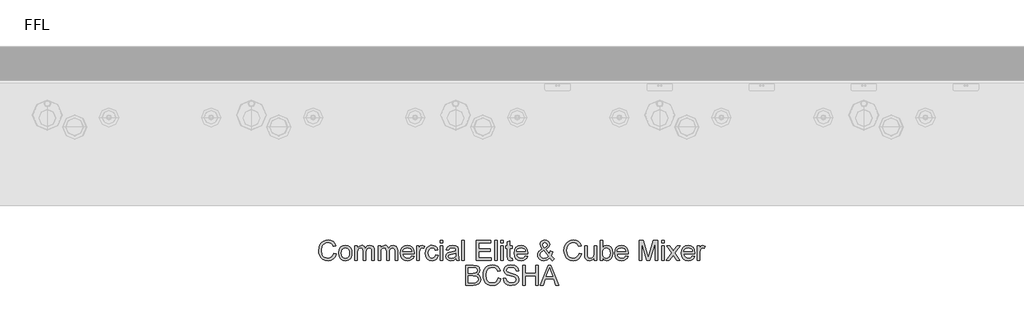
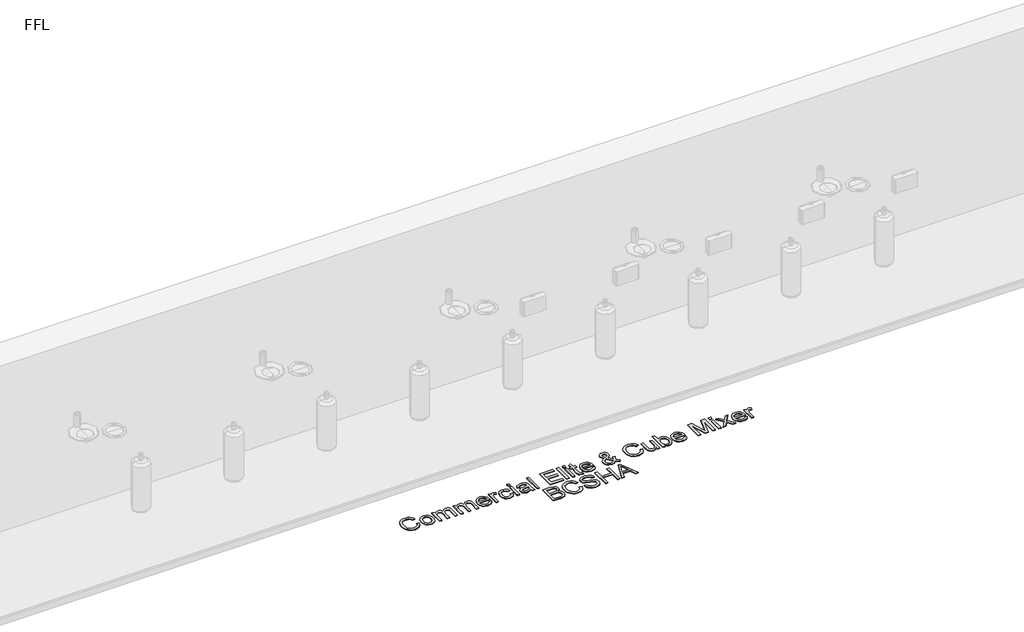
# One storey, part 5 of 13: 1 proxy.
"""IFC4 building model written with IfcOpenShell, lengths in millimetres."""

import ifcopenshell
import ifcopenshell.guid

model = None  # the IFC model being written
_history = None  # IfcOwnerHistory: only IFC2X3 demands one
_inside = {}  # id of a spatial element -> (the spatial element, [elements in it])
_under = {}  # id of a project, library or spatial element -> (it, [spatial elements below it])
_declared = {}  # id of a project -> (the project, [libraries it declares])
_typed = {}  # id of a type object -> (the type object, [elements of that type])
_made_of = {}  # id of a material, layer set ... -> (it, [elements and type objects made of it])


def new_model(schema):
    """Start an empty IFC model of exactly this schema.

    Asked for "IFC4X3", IfcOpenShell would pick the latest addendum, in which some entities
    have other attributes; the version numbers below select the first issue.
    IFC2X3 requires an IfcOwnerHistory on every rooted entity: one is made here for all.
    """
    global model, _history
    if schema == "IFC4X3":
        model = ifcopenshell.file(schema_version=(4, 3, 0, 0))
    else:
        model = ifcopenshell.file(schema=schema)
    _inside.clear()
    _under.clear()
    _declared.clear()
    _typed.clear()
    _made_of.clear()
    _history = None
    if model.schema == "IFC2X3":
        org = make("IfcOrganization", Name="unknown")
        user = make(
            "IfcPersonAndOrganization",
            ThePerson=make("IfcPerson", FamilyName="unknown"),
            TheOrganization=org,
        )
        app = make(
            "IfcApplication",
            ApplicationDeveloper=org,
            Version="unknown",
            ApplicationFullName="unknown",
            ApplicationIdentifier="unknown",
        )
        _history = make(
            "IfcOwnerHistory",
            OwningUser=user,
            OwningApplication=app,
            ChangeAction="ADDED",
            CreationDate=0,
        )
    return model


def make(cls, **values):
    """One entity of the class cls with the attributes given. An attribute that is None is left unset."""
    return model.create_entity(
        cls, **{name: value for name, value in values.items() if value is not None}
    )


def rooted(cls, **values):
    """An entity with a GlobalId (a new one), such as an element, a storey or a relation."""
    return make(cls, GlobalId=ifcopenshell.guid.new(), OwnerHistory=_history, **values)


def si_unit(unit_type, name, prefix=None):
    """IfcSIUnit, for example si_unit("LENGTHUNIT", "METRE", prefix="MILLI")."""
    return make("IfcSIUnit", UnitType=unit_type, Prefix=prefix, Name=name)


def assignment(units):
    """IfcUnitAssignment: the units of a project."""
    return None if units is None else make("IfcUnitAssignment", Units=units)


def point(xyz):
    """IfcCartesianPoint."""
    return None if xyz is None else make("IfcCartesianPoint", Coordinates=xyz)


def direction(xyz):
    """IfcDirection."""
    return None if xyz is None else make("IfcDirection", DirectionRatios=xyz)


def frame(location, z_axis=None, x_axis=None):
    """IfcAxis2Placement3D, a coordinate frame: its origin and axes. An axis left out is left unset."""
    return make(
        "IfcAxis2Placement3D",
        Location=point(location),
        Axis=direction(z_axis),
        RefDirection=direction(x_axis),
    )


def origin():
    """The frame at (0, 0, 0) with its axes left unset."""
    return frame((0.0, 0.0, 0.0))


def origin_with_axes():
    """The frame at (0, 0, 0) with the z axis (0, 0, 1) and the x axis (1, 0, 0) written out."""
    return frame((0.0, 0.0, 0.0), z_axis=(0.0, 0.0, 1.0), x_axis=(1.0, 0.0, 0.0))


def place(relative_to, where):
    """IfcLocalPlacement: puts the frame where relative to a parent placement (None: the world)."""
    return make(
        "IfcLocalPlacement", PlacementRelTo=relative_to, RelativePlacement=where
    )


def context(
    kind, dimensions, precision=None, world=None, true_north=None, identifier=None
):
    """IfcGeometricRepresentationContext, for example the 3D "Model" context."""
    return make(
        "IfcGeometricRepresentationContext",
        ContextIdentifier=identifier,
        ContextType=kind,
        CoordinateSpaceDimension=dimensions,
        Precision=precision,
        WorldCoordinateSystem=world,
        TrueNorth=true_north,
    )


def project(units=None, contexts=None):
    """IfcProject with its units and contexts."""
    return rooted(
        "IfcProject",
        Name="project",
        RepresentationContexts=contexts,
        UnitsInContext=assignment(units),
    )


def spatial(cls, under=None, at=None, **own):
    """A site, building, storey or space (cls), placed at a placement, below another one or the project."""
    s = rooted(cls, ObjectPlacement=at, **own)
    if under is not None:
        _under.setdefault(under.id(), (under, []))[1].append(s)
    return s


def polyline(points):
    """IfcPolyline through the points."""
    return make("IfcPolyline", Points=[point(p) for p in points])


def outline(outer, holes=None, kind="AREA"):
    """IfcArbitraryClosedProfileDef: a profile drawn as a closed curve; with holes, ...WithVoids."""
    if holes is None:
        return make("IfcArbitraryClosedProfileDef", ProfileType=kind, OuterCurve=outer)
    return make(
        "IfcArbitraryProfileDefWithVoids",
        ProfileType=kind,
        OuterCurve=outer,
        InnerCurves=holes,
    )


def extrude(swept, where, along, depth):
    """IfcExtrudedAreaSolid: the profile swept, set in the frame where, extruded along a direction by depth."""
    return make(
        "IfcExtrudedAreaSolid",
        SweptArea=swept,
        Position=where,
        ExtrudedDirection=direction(along),
        Depth=depth,
    )


def shape(context_of_items, identifier, shape_type, items):
    """IfcShapeRepresentation: the items that make up one representation, for example the "Body"."""
    return make(
        "IfcShapeRepresentation",
        ContextOfItems=context_of_items,
        RepresentationIdentifier=identifier,
        RepresentationType=shape_type,
        Items=items,
    )


def made_of(thing, what):
    """Note that an element or type object is made of a material, layer set ...; save() writes the relation."""
    if what is not None:
        _made_of.setdefault(what.id(), (what, []))[1].append(thing)
    return thing


def element(
    cls,
    number,
    at=None,
    inside=None,
    cuts=None,
    type_object=None,
    material=None,
    context=None,
    identifier="Body",
    shape_type=None,
    held_by="IfcProductDefinitionShape",
    body=None,
    shapes=None,
    **own,
):
    """One element of the class cls, such as IfcWall. Its Tag is "e" and its number.

    at: its placement. inside: the storey or other place that contains it. cuts: it is an
    opening in that element (IfcRelVoidsElement). A single representation is given by context,
    identifier, shape_type and body (its items); several are given by shapes. held_by: the class
    of the entity that holds the representations. save() writes the other relations.
    """
    e = rooted(cls, Tag="e%d" % number, ObjectPlacement=at, **own)
    if body is not None:
        shapes = [shape(context, identifier, shape_type, body)]
    if shapes is not None:
        e.Representation = make(held_by, Representations=shapes)
    if inside is not None:
        _inside.setdefault(inside.id(), (inside, []))[1].append(e)
    if cuts is not None:
        rooted(
            "IfcRelVoidsElement", RelatingBuildingElement=cuts, RelatedOpeningElement=e
        )
    if type_object is not None:
        _typed.setdefault(type_object.id(), (type_object, []))[1].append(e)
    return made_of(e, material)


def aggregate(whole, parts):
    """IfcRelAggregates: a whole, such as a stair, and the parts it consists of."""
    return rooted("IfcRelAggregates", RelatingObject=whole, RelatedObjects=parts)


def save(model, path):
    """Write the relations noted so far, then the file.

    IfcRelAggregates (storeys below a building ...), IfcRelContainedInSpatialStructure (elements
    in a storey), IfcRelDefinesByType, IfcRelAssociatesMaterial and IfcRelDeclares: one each for
    every whole, place, type object, material and project.
    """
    for whole, parts in _under.values():
        aggregate(whole, parts)
    for where, things in _inside.values():
        rooted(
            "IfcRelContainedInSpatialStructure",
            RelatedElements=things,
            RelatingStructure=where,
        )
    for kind, things in _typed.values():
        rooted("IfcRelDefinesByType", RelatedObjects=things, RelatingType=kind)
    for what, things in _made_of.values():
        rooted("IfcRelAssociatesMaterial", RelatedObjects=things, RelatingMaterial=what)
    for by, libraries in _declared.values():
        rooted("IfcRelDeclares", RelatingContext=by, RelatedDefinitions=libraries)
    model.write(path)


model = new_model("IFC4")

# Units and contexts
model_context = context("Model", 3, world=origin())
ifc_project = project(units=[si_unit("LENGTHUNIT", "METRE", prefix="MILLI")], contexts=[model_context])

# Site, building, storey
site = spatial("IfcSite", under=ifc_project)
building = spatial("IfcBuilding", under=site)
storey = spatial("IfcBuildingStorey", under=building, Name="FFL", Elevation=0.0)

# Proxy
placement = place(None, origin())
element("IfcBuildingElementProxy", 1, Name="150mm Arial", ObjectType="150mm Arial", at=placement, inside=storey, context=model_context, shape_type="SweptSolid", body=[
    extrude(outline(polyline([(5635.1685533, -4463.6981691), (5653.6300917, -4468.4577845), (5645.1114619, -4489.9707052), (5631.7430725, -4505.6873518), (5614.1829764, -4515.301234), (5593.0892264, -4518.5058614), (5571.6754643, -4516.0809816), (5554.6697552, -4508.8063422), (5541.6348994, -4496.934347), (5532.1336975, -4480.7173999), (5526.3329163, -4461.6518951), (5524.3993225, -4441.2342268), (5526.5853201, -4419.6987701), (5533.1433129, -4401.1020153), (5543.7307528, -4386.0344071), (5558.0050917, -4375.0863903), (5574.9341783, -4368.4202244), (5593.485861, -4366.1981691), (5613.727748, -4369.0737701), (5630.4630244, -4377.700573), (5643.1688538, -4391.5467268), (5651.3223994, -4410.0803807), (5632.860861, -4414.4794191), (5626.4606206, -4401.0163783), (5617.7166302, -4391.7811018), (5606.5207167, -4386.4400561), (5592.7647071, -4384.6597076), (5576.9083369, -4386.6338662), (5563.8824956, -4392.5563422), (5553.9981807, -4401.8051403), (5547.5663898, -4413.7582653), (5542.860861, -4441.1981691), (5548.4317744, -4473.0010537), (5555.5531687, -4484.8775561), (5565.7755244, -4493.3195633), (5578.0306326, -4498.3631331), (5591.2502841, -4500.044323), (5606.6604403, -4497.7546595), (5619.501486, -4490.8856691), (5629.196498, -4479.5094672), (5635.1685533, -4463.6981691)])), origin_with_axes(), (0.0, 0.0, 1.0), 5.0),
    extrude(outline(polyline([(5672.0916302, -4461.9673999), (5676.0850196, -4435.8165585), (5688.0651879, -4417.4361499), (5702.8668706, -4408.4307412), (5720.5892264, -4405.4289383), (5739.9837576, -4409.0842869), (5755.4750437, -4420.0503326), (5765.6297913, -4437.4616908), (5769.0147071, -4460.4529768), (5767.5183129, -4479.1038182), (5763.0291302, -4493.3015345), (5755.6778682, -4503.9340465), (5745.595236, -4511.8892749), (5733.6195749, -4516.8517148), (5720.5892264, -4518.5058614), (5700.9603201, -4514.8640345), (5685.4870629, -4503.9385537), (5675.4404884, -4486.1621114), (5672.0916302, -4461.9673999)]), holes=[polyline([(5690.5531687, -4461.9313422), (5692.6895869, -4478.6395754), (5699.0988417, -4490.543121), (5708.7442744, -4497.6690225), (5720.5892264, -4500.044323), (5732.3800917, -4497.6555008), (5742.0074956, -4490.4890345), (5748.4167504, -4478.4277364), (5750.5531687, -4461.3544191), (5748.4032288, -4445.1329648), (5741.9534091, -4433.3916787), (5732.3124836, -4426.2657773), (5720.5892264, -4423.8904768), (5708.7442744, -4426.2567629), (5699.0988417, -4433.355621), (5692.6895869, -4445.2321234), (5690.5531687, -4461.9313422)])]), origin_with_axes(), (0.0, 0.0, 1.0), 5.0),
    extrude(outline(polyline([(5789.7839379, -4516.1981691), (5789.7839379, -4407.7366307), (5808.2454764, -4407.7366307), (5808.2454764, -4425.5851883), (5820.9377841, -4410.9637941), (5839.0026879, -4405.4289383), (5849.2701158, -4406.8396956), (5857.5002841, -4411.0719672), (5867.6685533, -4426.8832653), (5882.0736014, -4410.7925201), (5900.2647071, -4405.4289383), (5914.1424115, -4407.6600081), (5924.4053321, -4414.3532172), (5930.7469788, -4425.6888542), (5932.860861, -4441.8472076), (5932.860861, -4516.1981691), (5914.3993225, -4516.1981691), (5914.3993225, -4449.7798999), (5912.6865821, -4434.3652364), (5906.4846591, -4426.7750922), (5895.9377841, -4423.8904768), (5885.9362816, -4425.7384335), (5877.782736, -4431.2823037), (5872.3605605, -4440.9006932), (5870.5531687, -4454.9722076), (5870.5531687, -4516.1981691), (5852.0916302, -4516.1981691), (5852.0916302, -4447.7246114), (5847.8187937, -4429.839996), (5842.180272, -4425.3778566), (5833.8103802, -4423.8904768), (5820.1445148, -4427.856823), (5811.0579764, -4439.4673999), (5808.2454764, -4461.4986499), (5808.2454764, -4516.1981691), (5789.7839379, -4516.1981691)])), origin_with_axes(), (0.0, 0.0, 1.0), 5.0),
    extrude(outline(polyline([(5960.5531687, -4516.1981691), (5960.5531687, -4407.7366307), (5979.0147071, -4407.7366307), (5979.0147071, -4425.5851883), (5991.7070148, -4410.9637941), (6009.7719187, -4405.4289383), (6020.0393466, -4406.8396956), (6028.2695148, -4411.0719672), (6038.4377841, -4426.8832653), (6052.8428321, -4410.7925201), (6071.0339379, -4405.4289383), (6084.9116422, -4407.6600081), (6095.1745629, -4414.3532172), (6101.5162095, -4425.6888542), (6103.6300917, -4441.8472076), (6103.6300917, -4516.1981691), (6085.1685533, -4516.1981691), (6085.1685533, -4449.7798999), (6083.4558129, -4434.3652364), (6077.2538898, -4426.7750922), (6066.7070148, -4423.8904768), (6056.7055124, -4425.7384335), (6048.5519667, -4431.2823037), (6043.1297913, -4440.9006932), (6041.3223994, -4454.9722076), (6041.3223994, -4516.1981691), (6022.860861, -4516.1981691), (6022.860861, -4447.7246114), (6018.5880244, -4429.839996), (6012.9495028, -4425.3778566), (6004.579611, -4423.8904768), (5990.9137456, -4427.856823), (5981.8272071, -4439.4673999), (5979.0147071, -4461.4986499), (5979.0147071, -4516.1981691), (5960.5531687, -4516.1981691)])), origin_with_axes(), (0.0, 0.0, 1.0), 5.0),
    extrude(outline(polyline([(6207.2598994, -4483.8904768), (6225.360861, -4486.1981691), (6218.8389259, -4499.8369912), (6208.4317744, -4510.0323037), (6194.3737816, -4516.387472), (6176.8993225, -4518.5058614), (6155.2376639, -4514.8505129), (6138.5699956, -4503.8844672), (6127.9419908, -4486.3198638), (6124.3993225, -4462.8688422), (6127.9780485, -4438.6290585), (6138.7142264, -4420.5010537), (6155.1565341, -4409.1969672), (6175.8536494, -4405.4289383), (6195.9062336, -4409.1879528), (6211.9293706, -4420.464996), (6222.4356807, -4438.5569432), (6225.9377841, -4462.7606691), (6225.829611, -4467.7366307), (6142.860861, -4467.7366307), (6146.056474, -4481.5557412), (6153.4798514, -4491.714996), (6164.1934932, -4497.9619912), (6177.2598994, -4500.044323), (6195.360861, -4496.1861499), (6207.2598994, -4483.8904768)]), holes=[polyline([(6142.860861, -4449.2750922), (6207.4762456, -4449.2750922), (6204.9792504, -4439.5214864), (6200.0844187, -4432.544323), (6189.3211975, -4426.0539383), (6175.7815341, -4423.8904768), (6163.337123, -4425.6167388), (6153.0471591, -4430.7955249), (6145.8942143, -4438.8679408), (6142.860861, -4449.2750922)])]), origin_with_axes(), (0.0, 0.0, 1.0), 5.0),
    extrude(outline(polyline([(6244.3993225, -4516.1981691), (6244.3993225, -4407.7366307), (6260.5531687, -4407.7366307), (6260.5531687, -4423.7823037), (6272.0195148, -4408.9986499), (6283.5579764, -4405.4289383), (6302.0916302, -4411.1260537), (6295.9257648, -4427.6765345), (6282.9449956, -4423.8904768), (6272.5062937, -4427.5323037), (6265.8536494, -4437.6284576), (6262.860861, -4459.1909576), (6262.860861, -4516.1981691), (6244.3993225, -4516.1981691)])), origin_with_axes(), (0.0, 0.0, 1.0), 5.0),
    extrude(outline(polyline([(6382.860861, -4476.9673999), (6401.3223994, -4479.2750922), (6396.1751639, -4495.6948638), (6386.5026879, -4508.1032172), (6373.2154283, -4515.9052004), (6357.2238417, -4518.5058614), (6337.5859211, -4514.8775561), (6322.2298514, -4503.9926403), (6312.3184932, -4486.3288783), (6309.0147071, -4462.3640345), (6314.657736, -4431.6969672), (6321.7791302, -4420.1990706), (6331.8572552, -4411.9914383), (6343.9140461, -4407.0695633), (6356.9714379, -4405.4289383), (6372.570897, -4407.6825441), (6385.0423514, -4414.4433614), (6393.9891663, -4425.3508133), (6399.0147071, -4440.044323), (6380.5531687, -4442.3520153), (6371.9894667, -4428.5238903), (6357.1156687, -4423.8904768), (6345.1850797, -4426.1711258), (6335.7154283, -4433.013073), (6329.5360413, -4444.7859095), (6327.4762456, -4461.8592268), (6329.4909691, -4479.1624119), (6335.5351398, -4490.9758133), (6344.8335172, -4497.7771956), (6356.610861, -4500.044323), (6366.1706566, -4498.6290585), (6374.0086975, -4494.3832653), (6379.7103201, -4487.1987701), (6382.860861, -4476.9673999)])), origin_with_axes(), (0.0, 0.0, 1.0), 5.0),
    extrude(outline(polyline([(6417.4762456, -4386.9673999), (6417.4762456, -4368.5058614), (6435.9377841, -4368.5058614), (6435.9377841, -4386.9673999), (6417.4762456, -4386.9673999)])), origin_with_axes(), (0.0, 0.0, 1.0), 5.0),
    extrude(outline(polyline([(6417.4762456, -4516.1981691), (6417.4762456, -4407.7366307), (6435.9377841, -4407.7366307), (6435.9377841, -4516.1981691), (6417.4762456, -4516.1981691)])), origin_with_axes(), (0.0, 0.0, 1.0), 5.0),
    extrude(outline(polyline([(6532.860861, -4502.3520153), (6514.9582167, -4514.8640345), (6495.1805725, -4518.5058614), (6479.7523874, -4516.3153566), (6468.3716783, -4509.7438422), (6461.3539499, -4499.7648758), (6459.0147071, -4487.3520153), (6462.548361, -4472.7486499), (6471.8332167, -4462.1476883), (6484.7598994, -4456.089996), (6500.7334571, -4453.3135537), (6532.7526879, -4446.9673999), (6532.860861, -4442.856823), (6531.5898273, -4434.6176403), (6527.7767264, -4429.2270153), (6519.2490821, -4425.2246114), (6507.3680725, -4423.8904768), (6488.6901879, -4427.4421595), (6479.7839379, -4440.044323), (6461.3223994, -4437.7366307), (6469.3091783, -4419.7077845), (6485.3909091, -4409.1428807), (6509.7478802, -4405.4289383), (6532.1216783, -4408.7101883), (6544.7598994, -4416.949371), (6550.4209571, -4429.4794191), (6551.3223994, -4445.6332653), (6551.3223994, -4468.6020153), (6552.2598994, -4500.6753326), (6555.9377841, -4516.1981691), (6537.4762456, -4516.1981691), (6532.860861, -4502.3520153)]), holes=[polyline([(6532.860861, -4465.4289383), (6503.0772071, -4471.089996), (6487.1937937, -4474.0827845), (6480.0002841, -4478.950573), (6477.4762456, -4486.0539383), (6482.9750437, -4496.0419191), (6499.110861, -4500.044323), (6517.7887456, -4495.6272557), (6529.8320148, -4484.9361499), (6532.7526879, -4470.6573037), (6532.860861, -4465.4289383)])]), origin_with_axes(), (0.0, 0.0, 1.0), 5.0),
    extrude(outline(polyline([(6576.7070148, -4516.1981691), (6576.7070148, -4368.5058614), (6595.1685533, -4368.5058614), (6595.1685533, -4516.1981691), (6576.7070148, -4516.1981691)])), origin_with_axes(), (0.0, 0.0, 1.0), 5.0),
    extrude(outline(polyline([(6682.860861, -4516.1981691), (6682.860861, -4368.5058614), (6789.0147071, -4368.5058614), (6789.0147071, -4386.9673999), (6701.3223994, -4386.9673999), (6701.3223994, -4430.8135537), (6784.3993225, -4430.8135537), (6784.3993225, -4449.2750922), (6701.3223994, -4449.2750922), (6701.3223994, -4497.7366307), (6791.3223994, -4497.7366307), (6791.3223994, -4516.1981691), (6682.860861, -4516.1981691)])), origin_with_axes(), (0.0, 0.0, 1.0), 5.0),
    extrude(outline(polyline([(6816.7070148, -4516.1981691), (6816.7070148, -4368.5058614), (6835.1685533, -4368.5058614), (6835.1685533, -4516.1981691), (6816.7070148, -4516.1981691)])), origin_with_axes(), (0.0, 0.0, 1.0), 5.0),
    extrude(outline(polyline([(6862.860861, -4516.1981691), (6862.860861, -4407.7366307), (6881.3223994, -4407.7366307), (6881.3223994, -4516.1981691), (6862.860861, -4516.1981691)])), origin_with_axes(), (0.0, 0.0, 1.0), 5.0),
    extrude(outline(polyline([(6862.860861, -4386.9673999), (6862.860861, -4368.5058614), (6881.3223994, -4368.5058614), (6881.3223994, -4386.9673999), (6862.860861, -4386.9673999)])), origin_with_axes(), (0.0, 0.0, 1.0), 5.0),
    extrude(outline(polyline([(6948.2454764, -4500.8015345), (6950.5531687, -4516.7390345), (6936.7430725, -4518.5058614), (6921.2743225, -4515.4409576), (6913.5579764, -4507.4000922), (6911.3223994, -4486.450573), (6911.3223994, -4426.1981691), (6897.4762456, -4426.1981691), (6897.4762456, -4407.7366307), (6911.3223994, -4407.7366307), (6911.3223994, -4381.3784576), (6929.7839379, -4370.5250922), (6929.7839379, -4407.7366307), (6948.2454764, -4407.7366307), (6948.2454764, -4426.1981691), (6929.7839379, -4426.1981691), (6929.7839379, -4485.9097076), (6930.7574956, -4495.4289383), (6933.9125437, -4498.8003326), (6940.204611, -4500.044323), (6948.2454764, -4500.8015345)])), origin_with_axes(), (0.0, 0.0, 1.0), 5.0),
    extrude(outline(polyline([(7042.6445148, -4483.8904768), (7060.7454764, -4486.1981691), (7054.2235413, -4499.8369912), (7043.8163898, -4510.0323037), (7029.758397, -4516.387472), (7012.2839379, -4518.5058614), (6990.6222792, -4514.8505129), (6973.954611, -4503.8844672), (6963.3266062, -4486.3198638), (6959.7839379, -4462.8688422), (6963.3626639, -4438.6290585), (6974.0988417, -4420.5010537), (6990.5411494, -4409.1969672), (7011.2382648, -4405.4289383), (7031.290849, -4409.1879528), (7047.313986, -4420.464996), (7057.8202961, -4438.5569432), (7061.3223994, -4462.7606691), (7061.2142264, -4467.7366307), (6978.2454764, -4467.7366307), (6981.4410893, -4481.5557412), (6988.8644667, -4491.714996), (6999.5781086, -4497.9619912), (7012.6445148, -4500.044323), (7030.7454764, -4496.1861499), (7042.6445148, -4483.8904768)]), holes=[polyline([(6978.2454764, -4449.2750922), (7042.860861, -4449.2750922), (7040.3638658, -4439.5214864), (7035.4690341, -4432.544323), (7024.7058129, -4426.0539383), (7011.1661494, -4423.8904768), (6998.7217384, -4425.6167388), (6988.4317744, -4430.7955249), (6981.2788297, -4438.8679408), (6978.2454764, -4449.2750922)])]), origin_with_axes(), (0.0, 0.0, 1.0), 5.0),
    extrude(outline(polyline([(7222.1757648, -4497.9529768), (7202.5964379, -4513.3676403), (7179.6998033, -4518.5058614), (7159.3272071, -4514.7017749), (7143.642111, -4503.2895153), (7135.5561735, -4490.1555008), (7132.860861, -4475.5611499), (7135.0288297, -4462.6254528), (7141.532736, -4451.0058614), (7152.3455365, -4440.7113903), (7167.4401879, -4431.7510537), (7154.5495629, -4413.0731691), (7151.3223994, -4399.2270153), (7153.8644667, -4386.7600682), (7161.4906687, -4376.0419191), (7172.9660292, -4368.6591066), (7187.0555725, -4366.1981691), (7200.4600196, -4368.5509335), (7211.1781687, -4375.6092268), (7218.2094187, -4385.9667989), (7220.5531687, -4398.2173999), (7218.8178922, -4408.5028566), (7213.6120629, -4418.013073), (7192.7887456, -4434.7077845), (7219.5074956, -4467.9890345), (7227.4762456, -4447.544323), (7245.9377841, -4451.5467268), (7232.8848994, -4481.9433614), (7255.1685533, -4504.2991307), (7241.3223994, -4518.5058614), (7222.1757648, -4497.9529768)]), holes=[polyline([(7183.4498033, -4423.0611499), (7198.6300917, -4411.6128326), (7202.0916302, -4400.7414383), (7197.5303321, -4389.1488903), (7186.1180725, -4384.6597076), (7174.4534091, -4389.1128326), (7169.7839379, -4399.9842268), (7171.3704764, -4406.7450441), (7176.1661494, -4414.263073), (7183.4498033, -4423.0611499)]), polyline([(7209.8079764, -4484.6476883), (7176.8512456, -4443.5058614), (7156.5687937, -4458.9746114), (7151.3223994, -4473.1092268), (7153.1162696, -4481.8171595), (7158.4978802, -4490.8496114), (7167.1697552, -4497.7456451), (7178.8344187, -4500.044323), (7195.7995629, -4495.7534576), (7209.8079764, -4484.6476883)])]), origin_with_axes(), (0.0, 0.0, 1.0), 5.0),
    extrude(outline(polyline([(7437.4762456, -4463.6981691), (7455.9377841, -4468.4577845), (7447.4191542, -4489.9707052), (7434.0507648, -4505.6873518), (7416.4906687, -4515.301234), (7395.3969187, -4518.5058614), (7373.9831566, -4516.0809816), (7356.9774475, -4508.8063422), (7343.9425917, -4496.934347), (7334.4413898, -4480.7173999), (7328.6406086, -4461.6518951), (7326.7070148, -4441.2342268), (7328.8930124, -4419.6987701), (7335.4510052, -4401.1020153), (7346.0384451, -4386.0344071), (7360.3127841, -4375.0863903), (7377.2418706, -4368.4202244), (7395.7935533, -4366.1981691), (7416.0354403, -4369.0737701), (7432.7707167, -4377.700573), (7445.4765461, -4391.5467268), (7453.6300917, -4410.0803807), (7435.1685533, -4414.4794191), (7428.7683129, -4401.0163783), (7420.0243225, -4391.7811018), (7408.8284091, -4386.4400561), (7395.0723994, -4384.6597076), (7379.2160292, -4386.6338662), (7366.1901879, -4392.5563422), (7356.305873, -4401.8051403), (7349.8740821, -4413.7582653), (7345.1685533, -4441.1981691), (7350.7394667, -4473.0010537), (7357.860861, -4484.8775561), (7368.0832167, -4493.3195633), (7380.3383249, -4498.3631331), (7393.5579764, -4500.044323), (7408.9681326, -4497.7546595), (7421.8091783, -4490.8856691), (7431.5041903, -4479.5094672), (7437.4762456, -4463.6981691)])), origin_with_axes(), (0.0, 0.0, 1.0), 5.0),
    extrude(outline(polyline([(7548.2454764, -4516.1981691), (7548.2454764, -4497.5563422), (7533.7863417, -4513.2684816), (7514.9281687, -4518.5058614), (7497.5663898, -4514.8279768), (7485.595236, -4505.5972076), (7480.0964379, -4492.0034576), (7479.0147071, -4474.839996), (7479.0147071, -4407.7366307), (7497.4762456, -4407.7366307), (7497.4762456, -4466.1500922), (7498.5940341, -4484.9722076), (7505.8957167, -4496.0238903), (7519.6517264, -4500.044323), (7535.0663898, -4495.933746), (7545.2526879, -4484.7378326), (7548.2454764, -4464.1669191), (7548.2454764, -4407.7366307), (7566.7070148, -4407.7366307), (7566.7070148, -4516.1981691), (7548.2454764, -4516.1981691)])), origin_with_axes(), (0.0, 0.0, 1.0), 5.0),
    extrude(outline(polyline([(7610.5531687, -4516.1981691), (7592.0916302, -4516.1981691), (7592.0916302, -4368.5058614), (7610.5531687, -4368.5058614), (7610.5531687, -4423.277496), (7623.4798514, -4409.8910778), (7639.5435533, -4405.4289383), (7658.0411494, -4409.449371), (7672.392111, -4420.7534576), (7681.2082167, -4438.3315826), (7684.3993225, -4460.3448037), (7681.0955365, -4484.9902364), (7671.1841783, -4503.325573), (7656.6394066, -4514.7107893), (7639.4353802, -4518.5058614), (7623.0201158, -4513.6110297), (7610.5531687, -4498.9265345), (7610.5531687, -4516.1981691)]), holes=[polyline([(7610.5531687, -4461.2101883), (7611.8151879, -4476.606823), (7615.6012456, -4487.027496), (7625.2737216, -4496.7901162), (7637.8488417, -4500.044323), (7648.5038898, -4497.6464864), (7657.6084571, -4490.4529768), (7663.8554523, -4478.5088662), (7665.9377841, -4461.8592268), (7663.9410893, -4444.966198), (7657.9510052, -4433.1573037), (7649.1303922, -4426.2071835), (7638.642111, -4423.8904768), (7627.9870629, -4426.2883133), (7618.8824956, -4433.481823), (7612.6355004, -4445.2095874), (7610.5531687, -4461.2101883)])]), origin_with_axes(), (0.0, 0.0, 1.0), 5.0),
    extrude(outline(polyline([(7781.1060533, -4483.8904768), (7799.2070148, -4486.1981691), (7792.6850797, -4499.8369912), (7782.2779283, -4510.0323037), (7768.2199355, -4516.387472), (7750.7454764, -4518.5058614), (7729.0838177, -4514.8505129), (7712.4161494, -4503.8844672), (7701.7881446, -4486.3198638), (7698.2454764, -4462.8688422), (7701.8242023, -4438.6290585), (7712.5603802, -4420.5010537), (7729.0026879, -4409.1969672), (7749.6998033, -4405.4289383), (7769.7523874, -4409.1879528), (7785.7755244, -4420.464996), (7796.2818345, -4438.5569432), (7799.7839379, -4462.7606691), (7799.6757648, -4467.7366307), (7716.7070148, -4467.7366307), (7719.9026278, -4481.5557412), (7727.3260052, -4491.714996), (7738.039647, -4497.9619912), (7751.1060533, -4500.044323), (7769.2070148, -4496.1861499), (7781.1060533, -4483.8904768)]), holes=[polyline([(7716.7070148, -4449.2750922), (7781.3223994, -4449.2750922), (7778.8254042, -4439.5214864), (7773.9305725, -4432.544323), (7763.1673514, -4426.0539383), (7749.6276879, -4423.8904768), (7737.1832768, -4425.6167388), (7726.8933129, -4430.7955249), (7719.7403682, -4438.8679408), (7716.7070148, -4449.2750922)])]), origin_with_axes(), (0.0, 0.0, 1.0), 5.0),
    extrude(outline(polyline([(7878.2454764, -4516.1981691), (7878.2454764, -4368.5058614), (7910.0123033, -4368.5058614), (7940.2286494, -4472.6044191), (7946.3223994, -4494.3472076), (7952.9209571, -4470.8015345), (7982.6324956, -4368.5058614), (8014.3993225, -4368.5058614), (8014.3993225, -4516.1981691), (7995.9377841, -4516.1981691), (7995.9377841, -4386.9673999), (7958.8344187, -4516.1981691), (7933.8103802, -4516.1981691), (7896.7070148, -4386.9673999), (7896.7070148, -4516.1981691), (7878.2454764, -4516.1981691)])), origin_with_axes(), (0.0, 0.0, 1.0), 5.0),
    extrude(outline(polyline([(8044.3993225, -4516.1981691), (8044.3993225, -4407.7366307), (8062.860861, -4407.7366307), (8062.860861, -4516.1981691), (8044.3993225, -4516.1981691)])), origin_with_axes(), (0.0, 0.0, 1.0), 5.0),
    extrude(outline(polyline([(8044.3993225, -4386.9673999), (8044.3993225, -4368.5058614), (8062.860861, -4368.5058614), (8062.860861, -4386.9673999), (8044.3993225, -4386.9673999)])), origin_with_axes(), (0.0, 0.0, 1.0), 5.0),
    extrude(outline(polyline([(8079.0147071, -4516.1981691), (8118.4618225, -4461.6789383), (8081.3223994, -4407.7366307), (8103.5339379, -4407.7366307), (8121.454611, -4433.6981691), (8129.8199956, -4445.9577845), (8137.0675917, -4435.933746), (8157.4762456, -4407.7366307), (8179.6877841, -4407.7366307), (8140.673361, -4461.6789383), (8178.2454764, -4516.1981691), (8156.0339379, -4516.1981691), (8133.4257648, -4483.4217268), (8129.2791302, -4477.4361499), (8101.2262456, -4516.1981691), (8079.0147071, -4516.1981691)])), origin_with_axes(), (0.0, 0.0, 1.0), 5.0),
    extrude(outline(polyline([(8270.3368225, -4483.8904768), (8288.4377841, -4486.1981691), (8281.915849, -4499.8369912), (8271.5086975, -4510.0323037), (8257.4507047, -4516.387472), (8239.9762456, -4518.5058614), (8218.3145869, -4514.8505129), (8201.6469187, -4503.8844672), (8191.0189139, -4486.3198638), (8187.4762456, -4462.8688422), (8191.0549716, -4438.6290585), (8201.7911494, -4420.5010537), (8218.2334571, -4409.1969672), (8238.9305725, -4405.4289383), (8258.9831566, -4409.1879528), (8275.0062937, -4420.464996), (8285.5126038, -4438.5569432), (8289.0147071, -4462.7606691), (8288.9065341, -4467.7366307), (8205.9377841, -4467.7366307), (8209.133397, -4481.5557412), (8216.5567744, -4491.714996), (8227.2704163, -4497.9619912), (8240.3368225, -4500.044323), (8258.4377841, -4496.1861499), (8270.3368225, -4483.8904768)]), holes=[polyline([(8205.9377841, -4449.2750922), (8270.5531687, -4449.2750922), (8268.0561735, -4439.5214864), (8263.1613417, -4432.544323), (8252.3981206, -4426.0539383), (8238.8584571, -4423.8904768), (8226.4140461, -4425.6167388), (8216.1240821, -4430.7955249), (8208.9711374, -4438.8679408), (8205.9377841, -4449.2750922)])]), origin_with_axes(), (0.0, 0.0, 1.0), 5.0),
    extrude(outline(polyline([(8307.4762456, -4516.1981691), (8307.4762456, -4407.7366307), (8323.6300917, -4407.7366307), (8323.6300917, -4423.7823037), (8335.0964379, -4408.9986499), (8346.6348994, -4405.4289383), (8365.1685533, -4411.1260537), (8359.0026879, -4427.6765345), (8346.0219187, -4423.8904768), (8335.5832167, -4427.5323037), (8328.9305725, -4437.6284576), (8325.9377841, -4459.1909576), (8325.9377841, -4516.1981691), (8307.4762456, -4516.1981691)])), origin_with_axes(), (0.0, 0.0, 1.0), 5.0),
    extrude(outline(polyline([(6603.2454764, -4698.5058614), (6603.2454764, -4550.8135537), (6659.6036494, -4550.8135537), (6687.2058129, -4555.1585057), (6696.4816542, -4560.6708254), (6703.5038898, -4568.5178807), (6709.3993225, -4587.4121114), (6704.4413898, -4604.6657172), (6689.4594187, -4617.7366307), (6699.9206566, -4623.199371), (6707.6505244, -4631.5106691), (6712.4236615, -4642.1206451), (6714.0147071, -4654.4794191), (6709.6697552, -4674.3291787), (6698.9065341, -4688.4637941), (6682.8428321, -4695.9637941), (6659.1709571, -4698.5058614), (6603.2454764, -4698.5058614)]), holes=[polyline([(6621.7070148, -4610.8135537), (6655.4209571, -4610.8135537), (6675.1084571, -4609.2270153), (6686.9534091, -4602.3940826), (6690.9377841, -4590.3688422), (6687.2238417, -4578.325573), (6676.5868225, -4571.2041787), (6652.860861, -4569.2750922), (6621.7070148, -4569.2750922), (6621.7070148, -4610.8135537)]), polyline([(6621.7070148, -4680.044323), (6659.5675917, -4680.044323), (6673.2695148, -4679.3231691), (6684.8620629, -4675.3027364), (6692.5423514, -4667.0996114), (6695.5531687, -4654.6597076), (6692.0195148, -4640.308746), (6680.5711975, -4631.7450441), (6657.7647071, -4629.2750922), (6621.7070148, -4629.2750922), (6621.7070148, -4680.044323)])]), origin_with_axes(), (0.0, 0.0, 1.0), 5.0),
    extrude(outline(polyline([(6843.2454764, -4646.0058614), (6861.7070148, -4650.7654768), (6853.188385, -4672.2783975), (6839.8199956, -4687.9950441), (6822.2598994, -4697.6089263), (6801.1661494, -4700.8135537), (6779.7523874, -4698.3886739), (6762.7466783, -4691.1140345), (6749.7118225, -4679.2420393), (6740.2106206, -4663.0250922), (6734.4098393, -4643.9595874), (6732.4762456, -4623.5419191), (6734.6622432, -4602.0064624), (6741.220236, -4583.4097076), (6751.8076759, -4568.3420994), (6766.0820148, -4557.3940826), (6783.0111014, -4550.7279167), (6801.5627841, -4548.5058614), (6821.8046711, -4551.3814624), (6838.5399475, -4560.0082653), (6851.2457768, -4573.8544191), (6859.3993225, -4592.388073), (6840.9377841, -4596.7871114), (6834.5375437, -4583.3240706), (6825.7935533, -4574.0887941), (6814.5976398, -4568.7477484), (6800.8416302, -4566.9673999), (6784.98526, -4568.9415585), (6771.9594187, -4574.8640345), (6762.0751038, -4584.1128326), (6755.6433129, -4596.0659576), (6750.9377841, -4623.5058614), (6756.5086975, -4655.308746), (6763.6300917, -4667.1852484), (6773.8524475, -4675.6272557), (6786.1075557, -4680.6708254), (6799.3272071, -4682.3520153), (6814.7373634, -4680.0623518), (6827.5784091, -4673.1933614), (6837.2734211, -4661.8171595), (6843.2454764, -4646.0058614)])), origin_with_axes(), (0.0, 0.0, 1.0), 5.0),
    extrude(outline(polyline([(6880.1685533, -4647.7366307), (6898.6300917, -4647.7366307), (6904.579611, -4666.216198), (6919.110861, -4677.8988903), (6941.2502841, -4682.3520153), (6960.5411494, -4678.980621), (6972.9990821, -4669.7137941), (6977.0916302, -4657.3279768), (6974.0267264, -4645.8075441), (6961.4786494, -4637.4241307), (6934.5976398, -4630.3748518), (6905.6613417, -4621.2702845), (6889.9582167, -4607.5323037), (6884.7839379, -4589.1789383), (6886.383998, -4578.3661379), (6891.1841783, -4568.2835057), (6899.0582768, -4559.7378326), (6909.8800917, -4553.5359095), (6937.2478802, -4548.5058614), (6966.454611, -4553.7702845), (6977.6505244, -4560.2696835), (6985.9257648, -4569.2390345), (6991.1631446, -4580.1194432), (6993.2454764, -4592.3520153), (6974.7839379, -4592.3520153), (6971.3945148, -4581.3363903), (6964.3272071, -4573.3856691), (6953.2845389, -4568.5719672), (6937.9690341, -4566.9673999), (6922.2929523, -4568.5539383), (6911.5387456, -4573.3135537), (6905.3187937, -4580.3177605), (6903.2454764, -4588.638073), (6904.7148273, -4595.7324239), (6909.1228802, -4601.4385537), (6939.267111, -4611.7510537), (6971.9353802, -4621.0178807), (6982.4597191, -4627.715597), (6989.8019667, -4635.981823), (6995.5531687, -4656.8592268), (6993.899022, -4668.2399359), (6988.9365821, -4678.9445633), (6980.8686735, -4688.1573037), (6969.8981206, -4695.0623518), (6941.9714379, -4700.8135537), (6923.883998, -4699.263073), (6908.9966783, -4694.6116307), (6897.1382047, -4686.841198), (6888.1373033, -4675.933746), (6882.3590581, -4662.6464864), (6880.1685533, -4647.7366307)])), origin_with_axes(), (0.0, 0.0, 1.0), 5.0),
    extrude(outline(polyline([(7023.2454764, -4698.5058614), (7023.2454764, -4550.8135537), (7041.7070148, -4550.8135537), (7041.7070148, -4610.8135537), (7120.1685533, -4610.8135537), (7120.1685533, -4550.8135537), (7138.6300917, -4550.8135537), (7138.6300917, -4698.5058614), (7120.1685533, -4698.5058614), (7120.1685533, -4629.2750922), (7041.7070148, -4629.2750922), (7041.7070148, -4698.5058614), (7023.2454764, -4698.5058614)])), origin_with_axes(), (0.0, 0.0, 1.0), 5.0),
    extrude(outline(polyline([(7153.7382648, -4698.5058614), (7212.6925917, -4550.8135537), (7228.4137456, -4550.8135537), (7287.3680725, -4698.5058614), (7267.860861, -4698.5058614), (7250.9498033, -4652.3520153), (7190.1204764, -4652.3520153), (7173.2454764, -4698.5058614), (7153.7382648, -4698.5058614)]), holes=[polyline([(7196.8993225, -4633.8904768), (7244.2070148, -4633.8904768), (7230.9017264, -4597.5803807), (7220.5531687, -4569.2750922), (7211.3584571, -4594.4073037), (7196.8993225, -4633.8904768)])]), origin_with_axes(), (0.0, 0.0, 1.0), 5.0),
])

save(model, "model.ifc")
